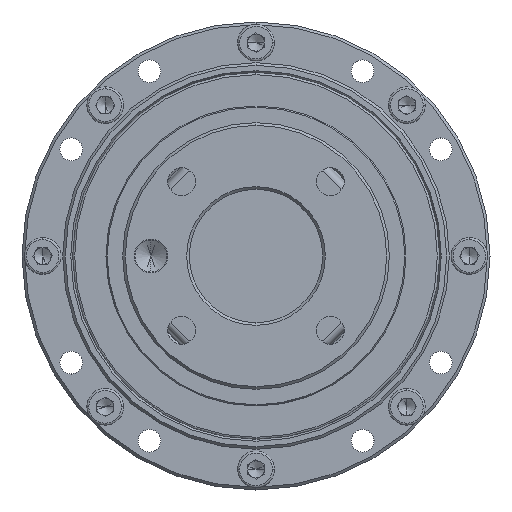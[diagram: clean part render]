
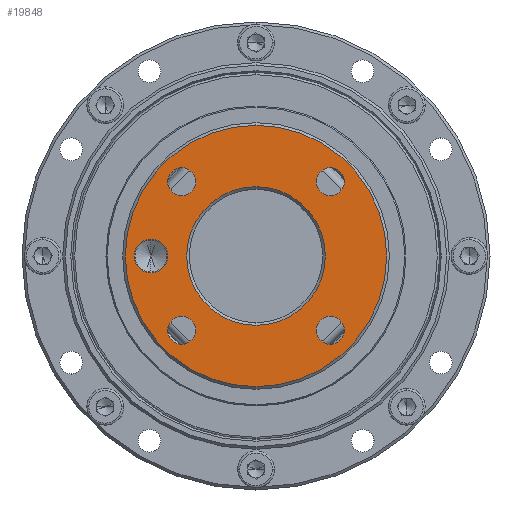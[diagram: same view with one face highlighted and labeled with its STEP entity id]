
A CAD part, left-side view. The second image highlights one B-rep face of the part: STEP entity #19848.
In plain terms, the highlighted planar face has unit normal (-1, 0, 0).
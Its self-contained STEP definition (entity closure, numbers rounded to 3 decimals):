
#24 = CIRCLE ( 'NONE', #14138, 2.5 ) ;
#127 = EDGE_CURVE ( 'NONE', #17688, #9743, #18687, .T. ) ;
#896 = CARTESIAN_POINT ( 'NONE',  ( 0., 11.137, 11.137 ) ) ;
#1015 = FACE_BOUND ( 'NONE', #16528, .T. ) ;
#1016 = DIRECTION ( 'NONE',  ( 0., 0., 1. ) ) ;
#1184 = EDGE_CURVE ( 'NONE', #9743, #17688, #6277, .T. ) ;
#1301 = ORIENTED_EDGE ( 'NONE', *, *, #8832, .F. ) ;
#1313 = EDGE_LOOP ( 'NONE', ( #1301, #9967 ) ) ;
#1521 = CARTESIAN_POINT ( 'NONE',  ( 0., 10., 0. ) ) ;
#1619 = DIRECTION ( 'NONE',  ( 0., 0., -1. ) ) ;
#1657 = CARTESIAN_POINT ( 'NONE',  ( 0., -11.137, 11.137 ) ) ;
#1741 = DIRECTION ( 'NONE',  ( 0., 0., 1. ) ) ;
#2157 = ORIENTED_EDGE ( 'NONE', *, *, #20346, .F. ) ;
#2302 = FACE_BOUND ( 'NONE', #14963, .T. ) ;
#2356 = CARTESIAN_POINT ( 'NONE',  ( 0., 0., -10.4 ) ) ;
#2380 = CARTESIAN_POINT ( 'NONE',  ( 0., -11.137, -9.037 ) ) ;
#2382 = DIRECTION ( 'NONE',  ( 0., 0., 1. ) ) ;
#2616 = AXIS2_PLACEMENT_3D ( 'NONE', #9720, #15591, #15684 ) ;
#2976 = VERTEX_POINT ( 'NONE', #22346 ) ;
#3054 = DIRECTION ( 'NONE',  ( -1., 0., 0. ) ) ;
#3080 = CARTESIAN_POINT ( 'NONE',  ( 0., 15.75, 0. ) ) ;
#3226 = EDGE_CURVE ( 'NONE', #20009, #7917, #9612, .T. ) ;
#3560 = ORIENTED_EDGE ( 'NONE', *, *, #19297, .F. ) ;
#3590 = DIRECTION ( 'NONE',  ( 1., 0., 0. ) ) ;
#3617 = DIRECTION ( 'NONE',  ( -1., 0., 0. ) ) ;
#3704 = DIRECTION ( 'NONE',  ( -1., 0., 0. ) ) ;
#3821 = CIRCLE ( 'NONE', #19564, 2.1 ) ;
#3846 = CARTESIAN_POINT ( 'NONE',  ( 0., 11.137, 13.237 ) ) ;
#3897 = EDGE_CURVE ( 'NONE', #11172, #13895, #18763, .T. ) ;
#3936 = CARTESIAN_POINT ( 'NONE',  ( 0., 11.137, 9.037 ) ) ;
#3989 = AXIS2_PLACEMENT_3D ( 'NONE', #10966, #4671, #17052 ) ;
#4159 = CARTESIAN_POINT ( 'NONE',  ( 0., -11.137, 13.237 ) ) ;
#4391 = CARTESIAN_POINT ( 'NONE',  ( 0., -11.137, -11.137 ) ) ;
#4671 = DIRECTION ( 'NONE',  ( 1., 0., 0. ) ) ;
#5131 = DIRECTION ( 'NONE',  ( -1., 0., 0. ) ) ;
#5647 = CARTESIAN_POINT ( 'NONE',  ( 0., 0., 0. ) ) ;
#5743 = DIRECTION ( 'NONE',  ( 0., 0., -1. ) ) ;
#5770 = FACE_BOUND ( 'NONE', #1313, .T. ) ;
#6074 = VERTEX_POINT ( 'NONE', #13880 ) ;
#6277 = CIRCLE ( 'NONE', #14734, 10.4 ) ;
#7168 = DIRECTION ( 'NONE',  ( 0., 0., 1. ) ) ;
#7193 = DIRECTION ( 'NONE',  ( -1., 0., 0. ) ) ;
#7224 = CIRCLE ( 'NONE', #21983, 19.6 ) ;
#7353 = VERTEX_POINT ( 'NONE', #22586 ) ;
#7414 = EDGE_CURVE ( 'NONE', #9825, #7353, #8927, .T. ) ;
#7906 = CIRCLE ( 'NONE', #10609, 2.1 ) ;
#7917 = VERTEX_POINT ( 'NONE', #3846 ) ;
#7933 = EDGE_LOOP ( 'NONE', ( #9972, #3560 ) ) ;
#8322 = DIRECTION ( 'NONE',  ( -1., 0., 0. ) ) ;
#8326 = FACE_BOUND ( 'NONE', #7933, .T. ) ;
#8832 = EDGE_CURVE ( 'NONE', #7917, #20009, #3821, .T. ) ;
#8927 = CIRCLE ( 'NONE', #26003, 2.5 ) ;
#9012 = CARTESIAN_POINT ( 'NONE',  ( 0., -11.137, 11.137 ) ) ;
#9146 = DIRECTION ( 'NONE',  ( -1., 0., 0. ) ) ;
#9375 = DIRECTION ( 'NONE',  ( 0., 0., 1. ) ) ;
#9612 = CIRCLE ( 'NONE', #17306, 2.1 ) ;
#9720 = CARTESIAN_POINT ( 'NONE',  ( 0., 11.137, -11.137 ) ) ;
#9743 = VERTEX_POINT ( 'NONE', #22336 ) ;
#9825 = VERTEX_POINT ( 'NONE', #16406 ) ;
#9967 = ORIENTED_EDGE ( 'NONE', *, *, #3226, .F. ) ;
#9972 = ORIENTED_EDGE ( 'NONE', *, *, #3897, .F. ) ;
#10040 = CARTESIAN_POINT ( 'NONE',  ( 0., 0., 0. ) ) ;
#10275 = CARTESIAN_POINT ( 'NONE',  ( 0., -11.137, -11.137 ) ) ;
#10507 = CARTESIAN_POINT ( 'NONE',  ( 0., -11.137, 9.037 ) ) ;
#10609 = AXIS2_PLACEMENT_3D ( 'NONE', #10275, #8322, #2382 ) ;
#10788 = CARTESIAN_POINT ( 'NONE',  ( 0., 11.137, 11.137 ) ) ;
#10890 = AXIS2_PLACEMENT_3D ( 'NONE', #9012, #3054, #1016 ) ;
#10956 = ORIENTED_EDGE ( 'NONE', *, *, #127, .T. ) ;
#10966 = CARTESIAN_POINT ( 'NONE',  ( 0., 0., 0. ) ) ;
#11172 = VERTEX_POINT ( 'NONE', #4159 ) ;
#11291 = CARTESIAN_POINT ( 'NONE',  ( 0., 0., 19.6 ) ) ;
#11658 = PLANE ( 'NONE',  #16135 ) ;
#12095 = ORIENTED_EDGE ( 'NONE', *, *, #7414, .F. ) ;
#12472 = FACE_BOUND ( 'NONE', #15741, .T. ) ;
#13266 = CARTESIAN_POINT ( 'NONE',  ( 0., 11.137, -11.137 ) ) ;
#13702 = CIRCLE ( 'NONE', #2616, 2.1 ) ;
#13880 = CARTESIAN_POINT ( 'NONE',  ( 0., -11.137, -13.237 ) ) ;
#13895 = VERTEX_POINT ( 'NONE', #10507 ) ;
#13919 = ORIENTED_EDGE ( 'NONE', *, *, #15452, .F. ) ;
#14138 = AXIS2_PLACEMENT_3D ( 'NONE', #19345, #9146, #23318 ) ;
#14308 = VERTEX_POINT ( 'NONE', #24213 ) ;
#14333 = ORIENTED_EDGE ( 'NONE', *, *, #1184, .T. ) ;
#14734 = AXIS2_PLACEMENT_3D ( 'NONE', #10040, #3590, #1619 ) ;
#14806 = EDGE_CURVE ( 'NONE', #17001, #6074, #7906, .T. ) ;
#14963 = EDGE_LOOP ( 'NONE', ( #14333, #10956 ) ) ;
#15022 = DIRECTION ( 'NONE',  ( -1., 0., 0. ) ) ;
#15049 = EDGE_CURVE ( 'NONE', #14308, #2976, #15184, .T. ) ;
#15184 = CIRCLE ( 'NONE', #20291, 2.1 ) ;
#15218 = DIRECTION ( 'NONE',  ( -1., 0., 0. ) ) ;
#15452 = EDGE_CURVE ( 'NONE', #6074, #17001, #25000, .T. ) ;
#15498 = ORIENTED_EDGE ( 'NONE', *, *, #22391, .F. ) ;
#15591 = DIRECTION ( 'NONE',  ( -1., 0., 0. ) ) ;
#15684 = DIRECTION ( 'NONE',  ( 0., 0., 1. ) ) ;
#15741 = EDGE_LOOP ( 'NONE', ( #24122, #13919 ) ) ;
#16135 = AXIS2_PLACEMENT_3D ( 'NONE', #1521, #19544, #17750 ) ;
#16153 = EDGE_CURVE ( 'NONE', #21606, #16788, #7224, .T. ) ;
#16310 = ORIENTED_EDGE ( 'NONE', *, *, #16153, .T. ) ;
#16406 = CARTESIAN_POINT ( 'NONE',  ( 0., 15.75, -2.5 ) ) ;
#16475 = ORIENTED_EDGE ( 'NONE', *, *, #24182, .T. ) ;
#16528 = EDGE_LOOP ( 'NONE', ( #18498, #15498 ) ) ;
#16788 = VERTEX_POINT ( 'NONE', #17187 ) ;
#16911 = EDGE_LOOP ( 'NONE', ( #2157, #12095 ) ) ;
#17001 = VERTEX_POINT ( 'NONE', #2380 ) ;
#17052 = DIRECTION ( 'NONE',  ( 0., 0., -1. ) ) ;
#17187 = CARTESIAN_POINT ( 'NONE',  ( 0., 0., -19.6 ) ) ;
#17306 = AXIS2_PLACEMENT_3D ( 'NONE', #896, #7193, #21356 ) ;
#17688 = VERTEX_POINT ( 'NONE', #2356 ) ;
#17750 = DIRECTION ( 'NONE',  ( 0., 0., -1. ) ) ;
#17820 = FACE_BOUND ( 'NONE', #16911, .T. ) ;
#18498 = ORIENTED_EDGE ( 'NONE', *, *, #15049, .F. ) ;
#18687 = CIRCLE ( 'NONE', #3989, 10.4 ) ;
#18763 = CIRCLE ( 'NONE', #10890, 2.1 ) ;
#19004 = DIRECTION ( 'NONE',  ( -1., 0., 0. ) ) ;
#19297 = EDGE_CURVE ( 'NONE', #13895, #11172, #21325, .T. ) ;
#19345 = CARTESIAN_POINT ( 'NONE',  ( 0., 15.75, 0. ) ) ;
#19456 = AXIS2_PLACEMENT_3D ( 'NONE', #5647, #3704, #5743 ) ;
#19537 = EDGE_LOOP ( 'NONE', ( #16475, #16310 ) ) ;
#19544 = DIRECTION ( 'NONE',  ( 1., 0., 0. ) ) ;
#19564 = AXIS2_PLACEMENT_3D ( 'NONE', #10788, #19004, #24948 ) ;
#19848 = ADVANCED_FACE ( 'NONE', ( #20685, #2302, #17820, #5770, #8326, #12472, #1015 ), #11658, .F. ) ;
#19943 = CIRCLE ( 'NONE', #19456, 19.6 ) ;
#20009 = VERTEX_POINT ( 'NONE', #3936 ) ;
#20291 = AXIS2_PLACEMENT_3D ( 'NONE', #13266, #15218, #9375 ) ;
#20346 = EDGE_CURVE ( 'NONE', #7353, #9825, #24, .T. ) ;
#20600 = DIRECTION ( 'NONE',  ( -1., 0., 0. ) ) ;
#20685 = FACE_OUTER_BOUND ( 'NONE', #19537, .T. ) ;
#20935 = DIRECTION ( 'NONE',  ( 0., 0., -1. ) ) ;
#21294 = AXIS2_PLACEMENT_3D ( 'NONE', #4391, #20600, #23375 ) ;
#21325 = CIRCLE ( 'NONE', #21712, 2.1 ) ;
#21356 = DIRECTION ( 'NONE',  ( 0., 0., 1. ) ) ;
#21606 = VERTEX_POINT ( 'NONE', #11291 ) ;
#21712 = AXIS2_PLACEMENT_3D ( 'NONE', #1657, #3617, #1741 ) ;
#21983 = AXIS2_PLACEMENT_3D ( 'NONE', #23148, #15022, #20935 ) ;
#22336 = CARTESIAN_POINT ( 'NONE',  ( 0., 0., 10.4 ) ) ;
#22346 = CARTESIAN_POINT ( 'NONE',  ( 0., 11.137, -13.237 ) ) ;
#22391 = EDGE_CURVE ( 'NONE', #2976, #14308, #13702, .T. ) ;
#22586 = CARTESIAN_POINT ( 'NONE',  ( 0., 15.75, 2.5 ) ) ;
#23148 = CARTESIAN_POINT ( 'NONE',  ( 0., 0., 0. ) ) ;
#23318 = DIRECTION ( 'NONE',  ( 0., 0., 1. ) ) ;
#23375 = DIRECTION ( 'NONE',  ( 0., 0., 1. ) ) ;
#24122 = ORIENTED_EDGE ( 'NONE', *, *, #14806, .F. ) ;
#24182 = EDGE_CURVE ( 'NONE', #16788, #21606, #19943, .T. ) ;
#24213 = CARTESIAN_POINT ( 'NONE',  ( 0., 11.137, -9.037 ) ) ;
#24948 = DIRECTION ( 'NONE',  ( 0., 0., 1. ) ) ;
#25000 = CIRCLE ( 'NONE', #21294, 2.1 ) ;
#26003 = AXIS2_PLACEMENT_3D ( 'NONE', #3080, #5131, #7168 ) ;
